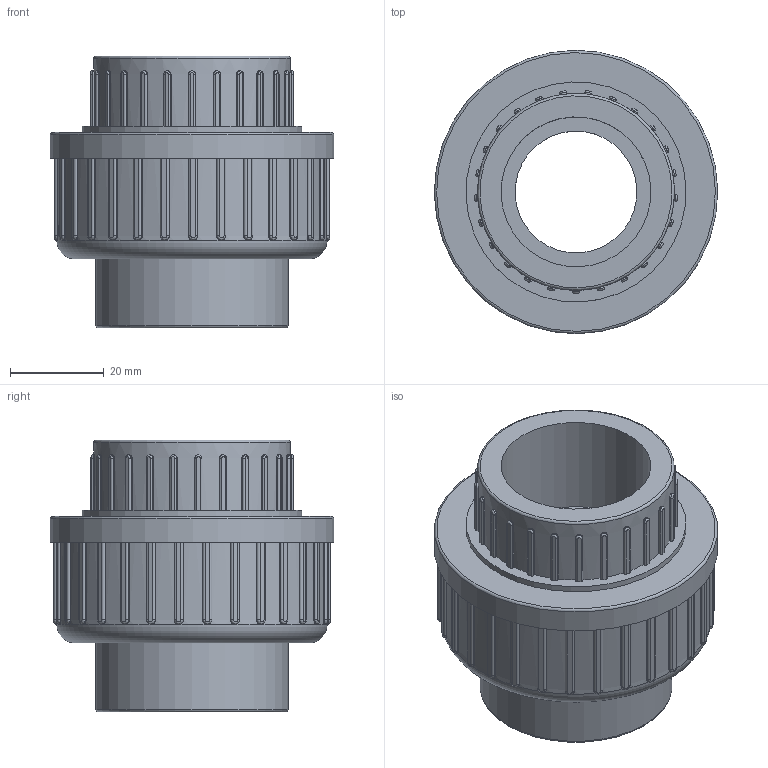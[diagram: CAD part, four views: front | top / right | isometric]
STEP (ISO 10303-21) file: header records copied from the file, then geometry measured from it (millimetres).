
FILE_DESCRIPTION(/* description */ (''),/* implementation_level */ '2;1');
FILE_NAME(/* name */ 'C:\Users\POLYPIPE\Desktop\DATASET INVENTOR\LIBRERIA EFFAST\3D_RACCORDI\RDR\3D_RDRBOD\3D_RDRBOD0320.stp',/* time_stamp */ '2018-01-22T10:24:19+01:00',/* author */ ('POLYPIPE'),/* organization */ (''),/* preprocessor_version */ 'ST-DEVELOPER v16.1',/* originating_system */ 'Autodesk Inventor 2016',/* authorisation */ '');
FILE_SCHEMA (('CONFIG_CONTROL_DESIGN'));
Length unit declared in the file: centimetre
Products named in the file (1): 3D_RDRBOD
Bounding box: 60.5 x 60.5 x 58 mm (x, y, z)
Volume: 70902.7 mm3; surface area: 22866.2 mm2
Topology: 1 solids, 2 shells, 442 faces, 1173 edges, 743 vertices
Faces by surface type: cylinder 206, plane 177, bspline 55, torus 4
Full cylindrical faces by diameter (mm): 26 x1, 28 x1, 32 x2, 41 x1, 42 x2, 44.5 x1, 45.4 x1, 47 x1, 60.5 x1
Entity records: 15398 total; most frequent: CARTESIAN_POINT 4098, ORIENTED_EDGE 2310, DIRECTION 2261, EDGE_CURVE 1155, AXIS2_PLACEMENT_3D 828, VERTEX_POINT 740, LINE 605, VECTOR 605
